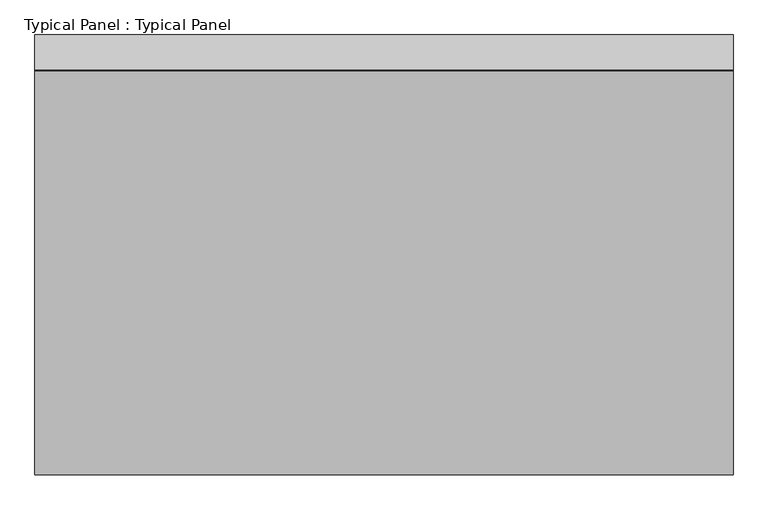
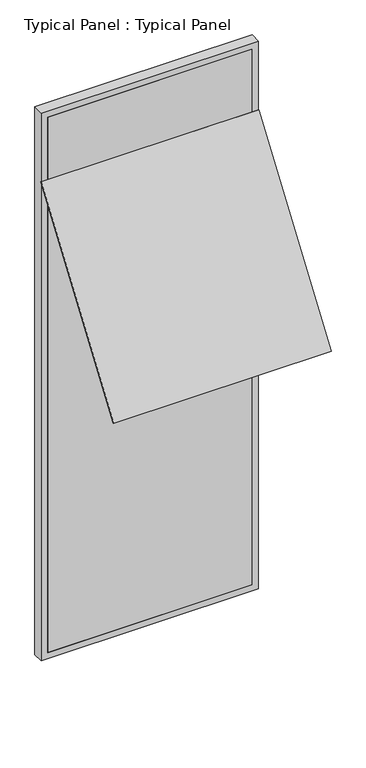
"""IFC4 building model written with IfcOpenShell, lengths in millimetres: plate geometry, Typical Panel : Typical Panel."""

from ifc_helpers import new_model, si_unit, frame, origin, place, context, project, spatial, polyline, outline, extrude, source, transform, mapped, element, save


def typical_panel_typical_panel_c068772c(model_context):
    return source(origin(), model_context, "Body", "SweptSolid", [
        extrude(outline(polyline([(0.0, -10.0), (0.0, 0.0), (1500.0, 0.0), (1500.0, -10.0), (0.0, -10.0)])), frame((750.0, -871.1004189, 2263.0804131), z_axis=(0.0, 0.5735764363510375, 0.8191520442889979), x_axis=(-1.0, 0.0, 0.0)), (0.0, 0.0, 1.0), 1510.0),
        extrude(outline(polyline([(0.0, -750.0), (0.0, 750.0), (4000.0, 750.0), (4000.0, -750.0), (0.0, -750.0)]), holes=[polyline([(45.0, 705.0), (45.0, -705.0), (3955.0, -705.0), (3955.0, 705.0), (45.0, 705.0)])]), frame((0.0, -1.5797986, 0.0), z_axis=(0.0, 1.0, 0.0), x_axis=(0.0, 0.0, 1.0)), (0.0, 0.0, 1.0), 75.0),
        extrude(outline(polyline([(705.0, -1.5797986), (-705.0, -1.5797986), (-705.0, 13.4202014), (705.0, 13.4202014), (705.0, -1.5797986)])), frame((0.0, 0.0, 45.0), z_axis=(0.0, 0.0, 1.0), x_axis=(1.0, 0.0, 0.0)), (0.0, 0.0, 1.0), 3910.0),
    ])


if __name__ == "__main__":
    model = new_model("IFC4")
    model_context = context("Model", 3, world=origin())
    ifc_project = project(units=[si_unit("LENGTHUNIT", "METRE", prefix="MILLI")], contexts=[model_context])
    site = spatial("IfcSite", under=ifc_project)
    building = spatial("IfcBuilding", under=site)
    placement = place(None, origin())
    typical_panel_typical_panel_shape = typical_panel_typical_panel_c068772c(model_context)
    element("IfcPlate", 1, ObjectType="Typical Panel : Typical Panel", at=placement, inside=building, context=model_context, shape_type="MappedRepresentation", body=[
        mapped(typical_panel_typical_panel_shape, transform((0.0, 0.0, 0.0), x_axis=(1.0, 0.0, 0.0), y_axis=(0.0, 1.0, 0.0), z_axis=(0.0, 0.0, 1.0))),
    ])
    save(model, "model.ifc")
